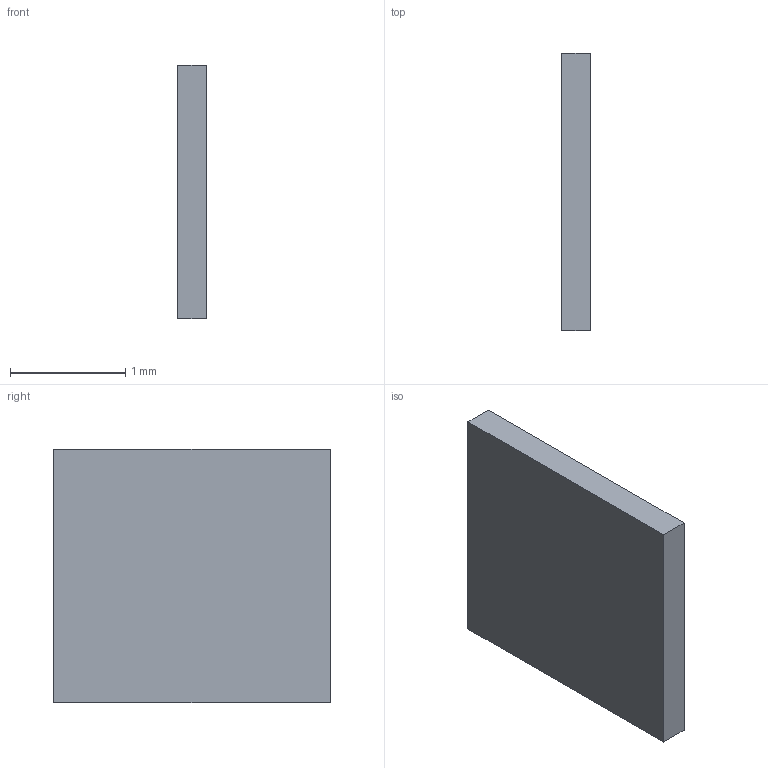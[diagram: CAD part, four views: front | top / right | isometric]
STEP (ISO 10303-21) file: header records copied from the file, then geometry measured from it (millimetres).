
FILE_DESCRIPTION(/* description */ (''),/* implementation_level */ '2;1');
FILE_NAME(/* name */ 'C28_R3_PTT_Compliant_Contact_25.step',/* time_stamp */ '2026-09-10T17:49:53-07:00',/* author */ (''),/* organization */ (''),/* preprocessor_version */ 'ST-DEVELOPER v20.1',/* originating_system */ 'Autodesk Translation Framework v15.8.0.0',/* authorisation */ '');
FILE_SCHEMA (('AUTOMOTIVE_DESIGN { 1 0 10303 214 3 1 1 }'));
Length unit declared in the file: millimetre
Products named in the file (1): 2026-09-10-17-49-53-651
Bounding box: 0.25 x 2.4 x 2.2 mm (x, y, z)
Volume: 1.3 mm3; surface area: 12.9 mm2
Topology: 1 solids, 1 shells, 6 faces, 12 edges, 8 vertices
Faces by surface type: plane 6
Entity records: 189 total; most frequent: CARTESIAN_POINT 27, DIRECTION 26, ORIENTED_EDGE 24, LINE 12, VECTOR 12, EDGE_CURVE 12, VERTEX_POINT 8, AXIS2_PLACEMENT_3D 7
